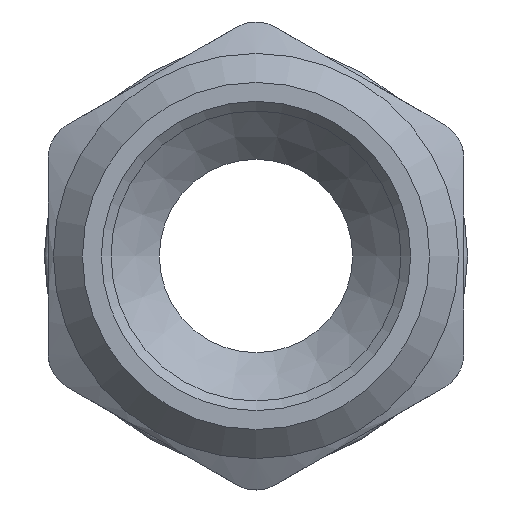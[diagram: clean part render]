
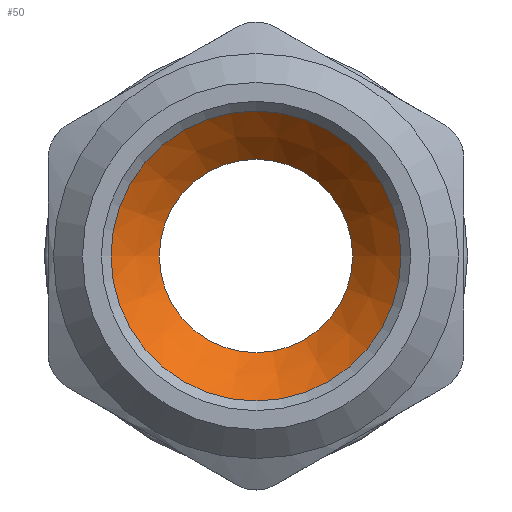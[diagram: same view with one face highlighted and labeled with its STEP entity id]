
A CAD part, front view. The second image highlights one B-rep face of the part: STEP entity #50.
In plain terms, the highlighted conical face has half-angle 45 degrees and reference radius 6.25 mm.
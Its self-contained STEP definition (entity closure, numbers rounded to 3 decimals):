
#50=ADVANCED_FACE('',(#159,#161),#163,.F.);
#159=FACE_OUTER_BOUND('',#160,.T.);
#160=EDGE_LOOP('',(#638));
#161=FACE_OUTER_BOUND('',#162,.T.);
#162=EDGE_LOOP('',(#639));
#163=CONICAL_SURFACE('',#164,6.25,0.785);
#164=AXIS2_PLACEMENT_3D('',#165,#166,#167);
#165=CARTESIAN_POINT('',(0.,-5.05,0.));
#166=DIRECTION('',(0.,-1.,0.));
#167=DIRECTION('',(1.,0.,0.));
#638=ORIENTED_EDGE('',*,*,#812,.T.);
#639=ORIENTED_EDGE('',*,*,#811,.F.);
#811=EDGE_CURVE('',#906,#906,#907,.T.);
#812=EDGE_CURVE('',#908,#908,#909,.T.);
#906=VERTEX_POINT('',#1087);
#907=CIRCLE('',#1088,5.);
#908=VERTEX_POINT('',#1092);
#909=CIRCLE('',#1093,7.5);
#1087=CARTESIAN_POINT('',(5.,-3.8,0.));
#1088=AXIS2_PLACEMENT_3D('',#1089,#1090,#1091);
#1089=CARTESIAN_POINT('',(0.,-3.8,0.));
#1090=DIRECTION('',(0.,-1.,0.));
#1091=DIRECTION('',(1.,0.,0.));
#1092=CARTESIAN_POINT('',(7.5,-6.3,0.));
#1093=AXIS2_PLACEMENT_3D('',#1094,#1095,#1096);
#1094=CARTESIAN_POINT('',(0.,-6.3,0.));
#1095=DIRECTION('',(0.,-1.,0.));
#1096=DIRECTION('',(1.,0.,0.));
